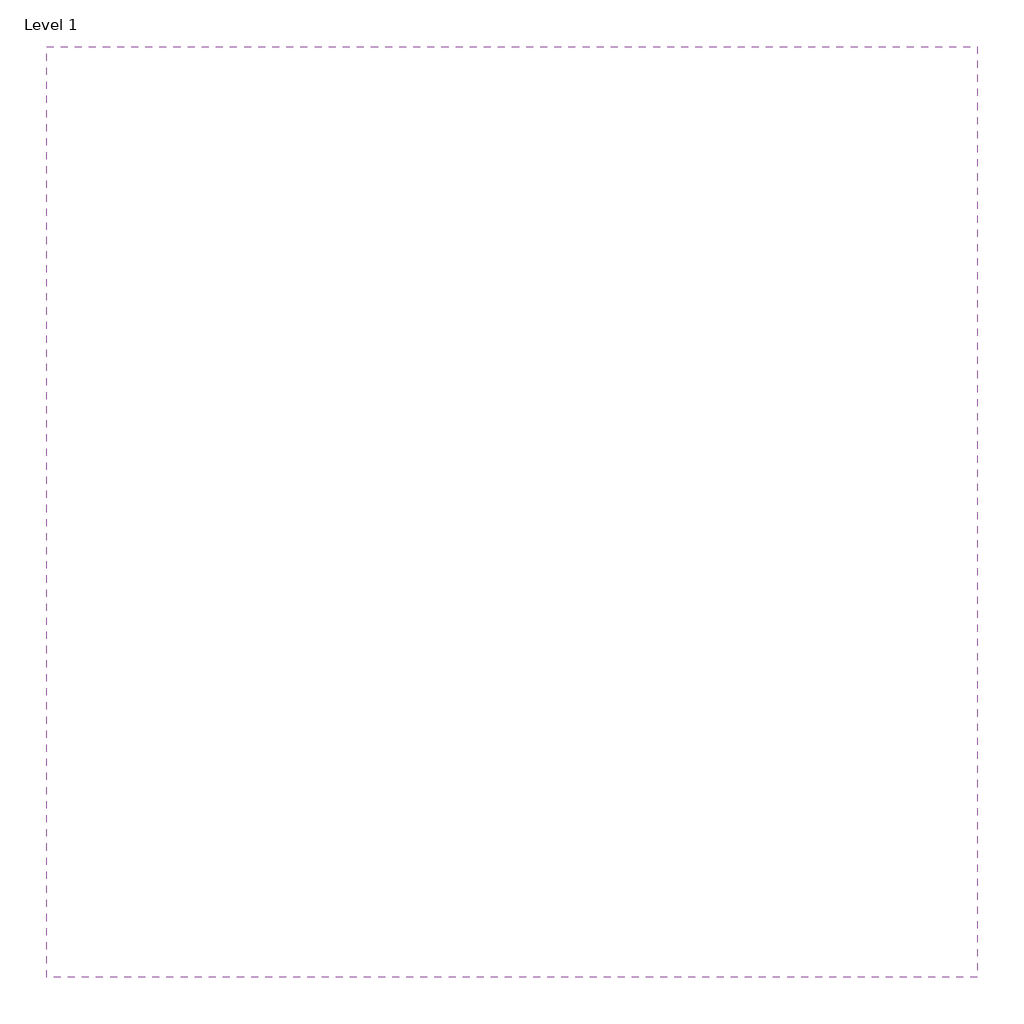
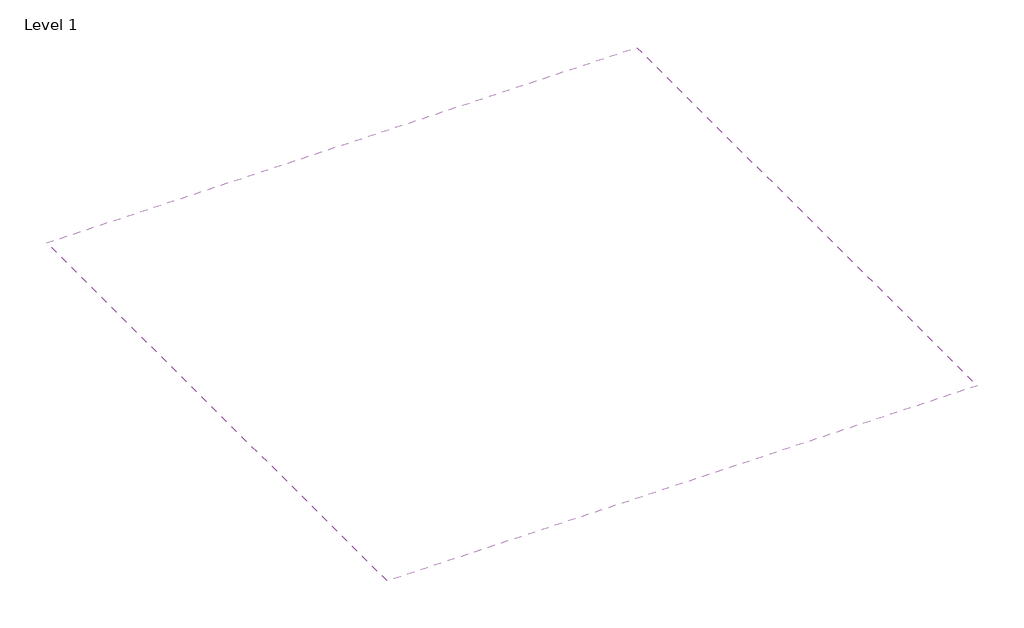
# One storey: 1 covering.
"""IFC4 building model written with IfcOpenShell, lengths in millimetres."""

from ifc_helpers import new_model, si_unit, frame, origin, place, context, project, spatial, polyline, outline, extrude, element, save

model = new_model("IFC4")

# Units and contexts
model_context = context("Model", 3, world=origin())
ifc_project = project(units=[si_unit("LENGTHUNIT", "METRE", prefix="MILLI")], contexts=[model_context])

# Site, building, storey
site = spatial("IfcSite", under=ifc_project)
building = spatial("IfcBuilding", under=site)
storey = spatial("IfcBuildingStorey", under=building, Name="Level 1", Elevation=0.0)

# Covering
placement = place(None, origin())
element("IfcCovering", 1, ObjectType="2x2_Optima-TechZone_15-16-Sq-Teg_3250_Armstrong", at=placement, inside=storey, context=model_context, shape_type="SweptSolid", body=[
    extrude(outline(polyline([(3959.7534901, 81129.2020664), (3959.7534901, 66498.8020664), (-10670.6465099, 66498.8020664), (-10670.6465099, 81129.2020664), (3959.7534901, 81129.2020664)])), frame((0.0, 0.0, 2438.4), z_axis=(0.0, 0.0, 1.0), x_axis=(1.0, 0.0, 0.0)), (0.0, 0.0, 1.0), 25.4),
])

save(model, "model.ifc")
